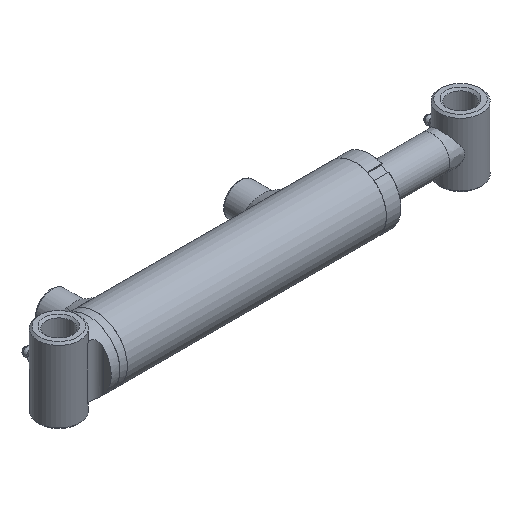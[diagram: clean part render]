
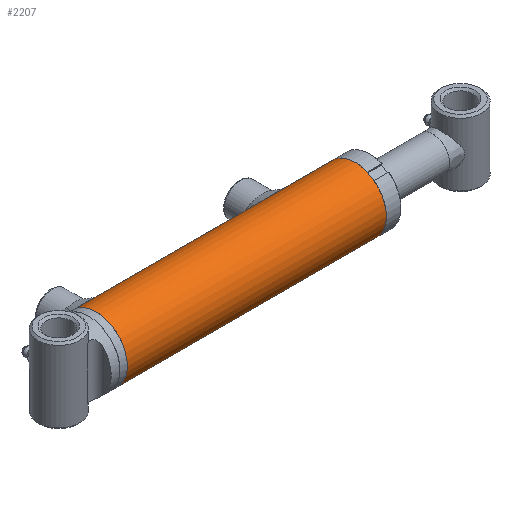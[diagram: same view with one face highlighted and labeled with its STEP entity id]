
A CAD part, isometric view. The second image highlights one B-rep face of the part: STEP entity #2207.
In plain terms, the highlighted cylindrical face has radius 23.812 mm (diameter 47.625 mm), a full revolution.
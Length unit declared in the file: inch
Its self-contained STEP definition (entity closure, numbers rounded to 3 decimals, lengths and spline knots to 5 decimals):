
#405=FACE_BOUND('',#715,.T.);
#406=FACE_BOUND('',#716,.T.);
#407=FACE_BOUND('',#717,.T.);
#527=FACE_OUTER_BOUND('',#714,.T.);
#714=EDGE_LOOP('',(#1695));
#715=EDGE_LOOP('',(#1696));
#716=EDGE_LOOP('',(#1697));
#717=EDGE_LOOP('',(#1698));
#951=CIRCLE('',#2387,0.9375);
#955=CIRCLE('',#2395,0.9375);
#1088=B_SPLINE_CURVE_WITH_KNOTS('',3,(#4752,#4753,#4754,#4755,#4756,#4757,
#4758,#4759,#4760,#4761,#4762,#4763,#4764,#4765,#4766,#4767,#4768,#4769,
#4770,#4771,#4772,#4773,#4774,#4775,#4776,#4777,#4778,#4779,#4780,#4781,
#4782,#4783,#4784,#4785),.UNSPECIFIED.,.T.,.F.,(4,2,2,2,2,2,2,2,2,2,2,2,
2,2,2,2,4),(0.,0.18896,0.37791,0.56686,0.7558,
0.94474,1.13369,1.32264,1.5116,1.70055,
1.88951,2.07845,2.2674,2.45634,2.64528,
2.83424,3.0232),.UNSPECIFIED.);
#1090=B_SPLINE_CURVE_WITH_KNOTS('',3,(#4920,#4921,#4922,#4923,#4924,#4925,
#4926,#4927,#4928,#4929,#4930,#4931,#4932,#4933,#4934,#4935,#4936,#4937,
#4938,#4939,#4940,#4941,#4942,#4943,#4944,#4945,#4946,#4947,#4948,#4949,
#4950,#4951,#4952,#4953),.UNSPECIFIED.,.T.,.F.,(4,2,2,2,2,2,2,2,2,2,2,2,
2,2,2,2,4),(0.,0.18896,0.37791,0.56686,0.7558,
0.94474,1.13369,1.32264,1.5116,1.70055,
1.88951,2.07845,2.2674,2.45634,2.64528,
2.83424,3.0232),.UNSPECIFIED.);
#1144=VERTEX_POINT('',#4751);
#1146=VERTEX_POINT('',#4919);
#1150=VERTEX_POINT('',#4963);
#1154=VERTEX_POINT('',#4975);
#1363=EDGE_CURVE('',#1144,#1144,#1088,.T.);
#1366=EDGE_CURVE('',#1146,#1146,#1090,.T.);
#1370=EDGE_CURVE('',#1150,#1150,#951,.T.);
#1374=EDGE_CURVE('',#1154,#1154,#955,.T.);
#1695=ORIENTED_EDGE('',*,*,#1374,.T.);
#1696=ORIENTED_EDGE('',*,*,#1363,.T.);
#1697=ORIENTED_EDGE('',*,*,#1366,.T.);
#1698=ORIENTED_EDGE('',*,*,#1370,.F.);
#2138=CYLINDRICAL_SURFACE('',#2397,0.9375);
#2207=ADVANCED_FACE('',(#527,#405,#406,#407),#2138,.T.);
#2387=AXIS2_PLACEMENT_3D('',#4964,#2732,#2733);
#2395=AXIS2_PLACEMENT_3D('',#4976,#2748,#2749);
#2397=AXIS2_PLACEMENT_3D('',#4978,#2752,#2753);
#2732=DIRECTION('center_axis',(1.,0.,0.));
#2733=DIRECTION('ref_axis',(0.,-1.,0.));
#2748=DIRECTION('center_axis',(1.,0.,0.));
#2749=DIRECTION('ref_axis',(0.,-1.,0.));
#2752=DIRECTION('center_axis',(1.,0.,0.));
#2753=DIRECTION('ref_axis',(0.,-1.,0.));
#4751=CARTESIAN_POINT('',(2.22195,0.9166,-0.19685));
#4752=CARTESIAN_POINT('Ctrl Pts',(2.22195,0.9166,-0.19685));
#4753=CARTESIAN_POINT('Ctrl Pts',(2.24675,0.9166,-0.19685));
#4754=CARTESIAN_POINT('Ctrl Pts',(2.27314,0.91771,-0.19188));
#4755=CARTESIAN_POINT('Ctrl Pts',(2.32162,0.92169,-0.17177));
#4756=CARTESIAN_POINT('Ctrl Pts',(2.34371,0.92449,-0.15663));
#4757=CARTESIAN_POINT('Ctrl Pts',(2.37858,0.92973,-0.12176));
#4758=CARTESIAN_POINT('Ctrl Pts',(2.39372,0.9325,-0.09967));
#4759=CARTESIAN_POINT('Ctrl Pts',(2.41383,0.93642,-0.05119));
#4760=CARTESIAN_POINT('Ctrl Pts',(2.4188,0.9375,-0.0248));
#4761=CARTESIAN_POINT('Ctrl Pts',(2.4188,0.9375,0.0248));
#4762=CARTESIAN_POINT('Ctrl Pts',(2.41383,0.93642,0.05119));
#4763=CARTESIAN_POINT('Ctrl Pts',(2.39372,0.9325,0.09967));
#4764=CARTESIAN_POINT('Ctrl Pts',(2.37858,0.92973,0.12176));
#4765=CARTESIAN_POINT('Ctrl Pts',(2.34371,0.92449,0.15663));
#4766=CARTESIAN_POINT('Ctrl Pts',(2.32162,0.92169,0.17177));
#4767=CARTESIAN_POINT('Ctrl Pts',(2.27314,0.91771,0.19188));
#4768=CARTESIAN_POINT('Ctrl Pts',(2.24675,0.9166,0.19685));
#4769=CARTESIAN_POINT('Ctrl Pts',(2.19715,0.9166,0.19685));
#4770=CARTESIAN_POINT('Ctrl Pts',(2.17075,0.91771,0.19188));
#4771=CARTESIAN_POINT('Ctrl Pts',(2.12228,0.92169,0.17177));
#4772=CARTESIAN_POINT('Ctrl Pts',(2.10019,0.92449,0.15663));
#4773=CARTESIAN_POINT('Ctrl Pts',(2.06532,0.92973,0.12176));
#4774=CARTESIAN_POINT('Ctrl Pts',(2.05018,0.9325,0.09967));
#4775=CARTESIAN_POINT('Ctrl Pts',(2.03007,0.93642,0.05119));
#4776=CARTESIAN_POINT('Ctrl Pts',(2.0251,0.9375,0.0248));
#4777=CARTESIAN_POINT('Ctrl Pts',(2.0251,0.9375,-0.0248));
#4778=CARTESIAN_POINT('Ctrl Pts',(2.03007,0.93642,-0.05119));
#4779=CARTESIAN_POINT('Ctrl Pts',(2.05018,0.9325,-0.09967));
#4780=CARTESIAN_POINT('Ctrl Pts',(2.06532,0.92973,-0.12176));
#4781=CARTESIAN_POINT('Ctrl Pts',(2.10019,0.92449,-0.15663));
#4782=CARTESIAN_POINT('Ctrl Pts',(2.12228,0.92169,-0.17177));
#4783=CARTESIAN_POINT('Ctrl Pts',(2.17075,0.91771,-0.19188));
#4784=CARTESIAN_POINT('Ctrl Pts',(2.19715,0.9166,-0.19685));
#4785=CARTESIAN_POINT('Ctrl Pts',(2.22195,0.9166,-0.19685));
#4919=CARTESIAN_POINT('',(-3.40305,0.9166,-0.19685));
#4920=CARTESIAN_POINT('Ctrl Pts',(-3.40305,0.9166,-0.19685));
#4921=CARTESIAN_POINT('Ctrl Pts',(-3.37825,0.9166,-0.19685));
#4922=CARTESIAN_POINT('Ctrl Pts',(-3.35186,0.91771,-0.19188));
#4923=CARTESIAN_POINT('Ctrl Pts',(-3.30338,0.92169,-0.17177));
#4924=CARTESIAN_POINT('Ctrl Pts',(-3.28129,0.92449,-0.15663));
#4925=CARTESIAN_POINT('Ctrl Pts',(-3.24642,0.92973,-0.12176));
#4926=CARTESIAN_POINT('Ctrl Pts',(-3.23128,0.9325,-0.09967));
#4927=CARTESIAN_POINT('Ctrl Pts',(-3.21117,0.93642,-0.05119));
#4928=CARTESIAN_POINT('Ctrl Pts',(-3.2062,0.9375,-0.0248));
#4929=CARTESIAN_POINT('Ctrl Pts',(-3.2062,0.9375,0.0248));
#4930=CARTESIAN_POINT('Ctrl Pts',(-3.21117,0.93642,0.05119));
#4931=CARTESIAN_POINT('Ctrl Pts',(-3.23128,0.9325,0.09967));
#4932=CARTESIAN_POINT('Ctrl Pts',(-3.24642,0.92973,0.12176));
#4933=CARTESIAN_POINT('Ctrl Pts',(-3.28129,0.92449,0.15663));
#4934=CARTESIAN_POINT('Ctrl Pts',(-3.30338,0.92169,0.17177));
#4935=CARTESIAN_POINT('Ctrl Pts',(-3.35186,0.91771,0.19188));
#4936=CARTESIAN_POINT('Ctrl Pts',(-3.37825,0.9166,0.19685));
#4937=CARTESIAN_POINT('Ctrl Pts',(-3.42785,0.9166,0.19685));
#4938=CARTESIAN_POINT('Ctrl Pts',(-3.45425,0.91771,0.19188));
#4939=CARTESIAN_POINT('Ctrl Pts',(-3.50272,0.92169,0.17177));
#4940=CARTESIAN_POINT('Ctrl Pts',(-3.52481,0.92449,0.15663));
#4941=CARTESIAN_POINT('Ctrl Pts',(-3.55968,0.92973,0.12176));
#4942=CARTESIAN_POINT('Ctrl Pts',(-3.57482,0.9325,0.09967));
#4943=CARTESIAN_POINT('Ctrl Pts',(-3.59493,0.93642,0.05119));
#4944=CARTESIAN_POINT('Ctrl Pts',(-3.5999,0.9375,0.0248));
#4945=CARTESIAN_POINT('Ctrl Pts',(-3.5999,0.9375,-0.0248));
#4946=CARTESIAN_POINT('Ctrl Pts',(-3.59493,0.93642,-0.05119));
#4947=CARTESIAN_POINT('Ctrl Pts',(-3.57482,0.9325,-0.09967));
#4948=CARTESIAN_POINT('Ctrl Pts',(-3.55968,0.92973,-0.12176));
#4949=CARTESIAN_POINT('Ctrl Pts',(-3.52481,0.92449,-0.15663));
#4950=CARTESIAN_POINT('Ctrl Pts',(-3.50272,0.92169,-0.17177));
#4951=CARTESIAN_POINT('Ctrl Pts',(-3.45425,0.91771,-0.19188));
#4952=CARTESIAN_POINT('Ctrl Pts',(-3.42785,0.9166,-0.19685));
#4953=CARTESIAN_POINT('Ctrl Pts',(-3.40305,0.9166,-0.19685));
#4963=CARTESIAN_POINT('',(3.95423,0.9375,0.));
#4964=CARTESIAN_POINT('Origin',(3.95423,0.,0.));
#4975=CARTESIAN_POINT('',(-3.78445,0.9375,0.));
#4976=CARTESIAN_POINT('Origin',(-3.78445,0.,0.));
#4978=CARTESIAN_POINT('Origin',(0.,0.,0.));
